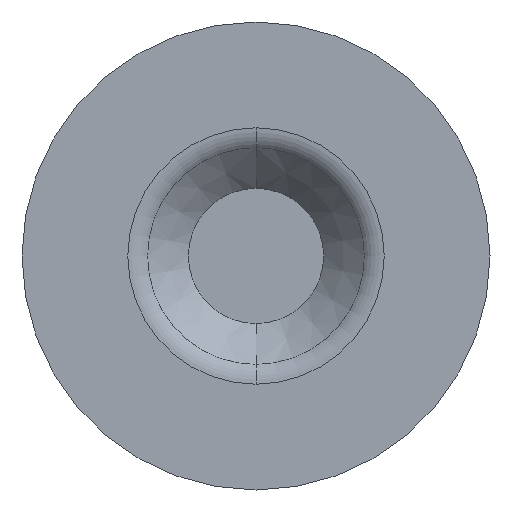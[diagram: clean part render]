
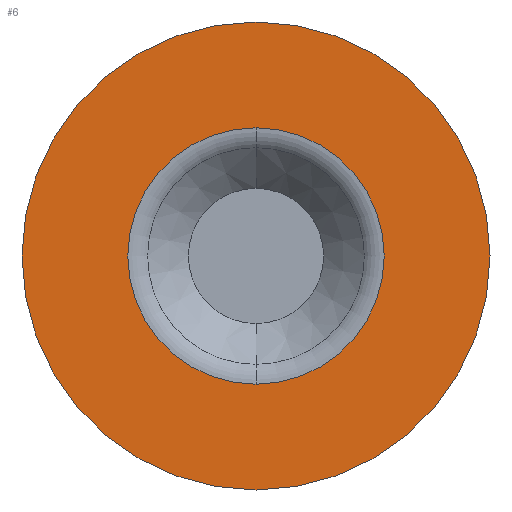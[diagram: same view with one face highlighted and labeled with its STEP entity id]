
A CAD part, front view. The second image highlights one B-rep face of the part: STEP entity #6.
In plain terms, the highlighted planar face has unit normal (0, -1, 0).
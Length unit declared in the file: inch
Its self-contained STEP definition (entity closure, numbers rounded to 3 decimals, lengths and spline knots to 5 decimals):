
#4 = CIRCLE ( 'NONE', #311, 1. ) ;
#5 = DIRECTION ( 'NONE',  ( 0., 1., 0. ) ) ;
#6 = ADVANCED_FACE ( 'NONE', ( #165, #443 ), #67, .F. ) ;
#19 = VERTEX_POINT ( 'NONE', #423 ) ;
#52 = EDGE_LOOP ( 'NONE', ( #432, #60 ) ) ;
#60 = ORIENTED_EDGE ( 'NONE', *, *, #310, .T. ) ;
#67 = PLANE ( 'NONE',  #413 ) ;
#76 = ORIENTED_EDGE ( 'NONE', *, *, #211, .F. ) ;
#96 = DIRECTION ( 'NONE',  ( 0., 0., 1. ) ) ;
#100 = EDGE_CURVE ( 'NONE', #19, #107, #330, .T. ) ;
#107 = VERTEX_POINT ( 'NONE', #513 ) ;
#116 = CARTESIAN_POINT ( 'NONE',  ( 0., -0.268, 0.54785 ) ) ;
#159 = DIRECTION ( 'NONE',  ( 0., 0., 1. ) ) ;
#165 = FACE_OUTER_BOUND ( 'NONE', #389, .T. ) ;
#176 = CARTESIAN_POINT ( 'NONE',  ( 0., -0.268, 0. ) ) ;
#184 = CARTESIAN_POINT ( 'NONE',  ( 0., -0.268, 0. ) ) ;
#186 = DIRECTION ( 'NONE',  ( 0., 1., 0. ) ) ;
#211 = EDGE_CURVE ( 'NONE', #107, #19, #4, .T. ) ;
#222 = DIRECTION ( 'NONE',  ( 0., 1., 0. ) ) ;
#243 = DIRECTION ( 'NONE',  ( 0., 1., 0. ) ) ;
#246 = CARTESIAN_POINT ( 'NONE',  ( 0., -0.268, -0.54785 ) ) ;
#265 = CIRCLE ( 'NONE', #499, 0.54785 ) ;
#267 = DIRECTION ( 'NONE',  ( 0., 0., 1. ) ) ;
#273 = DIRECTION ( 'NONE',  ( 0., 0., 1. ) ) ;
#293 = DIRECTION ( 'NONE',  ( 0., 1., 0. ) ) ;
#310 = EDGE_CURVE ( 'NONE', #345, #407, #265, .T. ) ;
#311 = AXIS2_PLACEMENT_3D ( 'NONE', #518, #186, #273 ) ;
#330 = CIRCLE ( 'NONE', #458, 1. ) ;
#332 = ORIENTED_EDGE ( 'NONE', *, *, #100, .F. ) ;
#341 = DIRECTION ( 'NONE',  ( 0., 0., 1. ) ) ;
#345 = VERTEX_POINT ( 'NONE', #246 ) ;
#346 = EDGE_CURVE ( 'NONE', #407, #345, #360, .T. ) ;
#359 = CARTESIAN_POINT ( 'NONE',  ( 0.54785, -0.268, 0. ) ) ;
#360 = CIRCLE ( 'NONE', #415, 0.54785 ) ;
#389 = EDGE_LOOP ( 'NONE', ( #332, #76 ) ) ;
#407 = VERTEX_POINT ( 'NONE', #116 ) ;
#413 = AXIS2_PLACEMENT_3D ( 'NONE', #359, #293, #341 ) ;
#415 = AXIS2_PLACEMENT_3D ( 'NONE', #450, #243, #159 ) ;
#423 = CARTESIAN_POINT ( 'NONE',  ( 0., -0.268, 1. ) ) ;
#432 = ORIENTED_EDGE ( 'NONE', *, *, #346, .T. ) ;
#443 = FACE_BOUND ( 'NONE', #52, .T. ) ;
#450 = CARTESIAN_POINT ( 'NONE',  ( 0., -0.268, 0. ) ) ;
#458 = AXIS2_PLACEMENT_3D ( 'NONE', #176, #5, #267 ) ;
#499 = AXIS2_PLACEMENT_3D ( 'NONE', #184, #222, #96 ) ;
#513 = CARTESIAN_POINT ( 'NONE',  ( 0., -0.268, -1. ) ) ;
#518 = CARTESIAN_POINT ( 'NONE',  ( 0., -0.268, 0. ) ) ;
